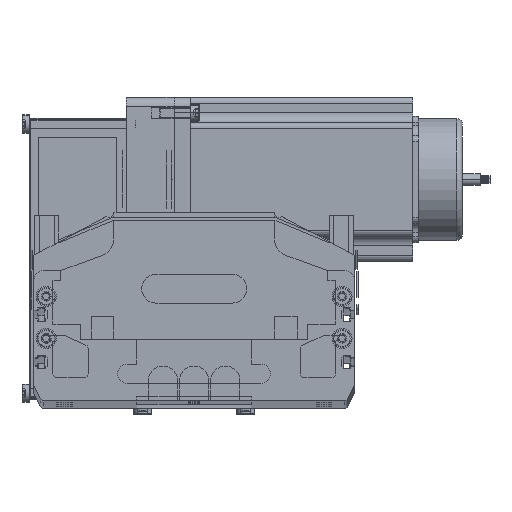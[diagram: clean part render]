
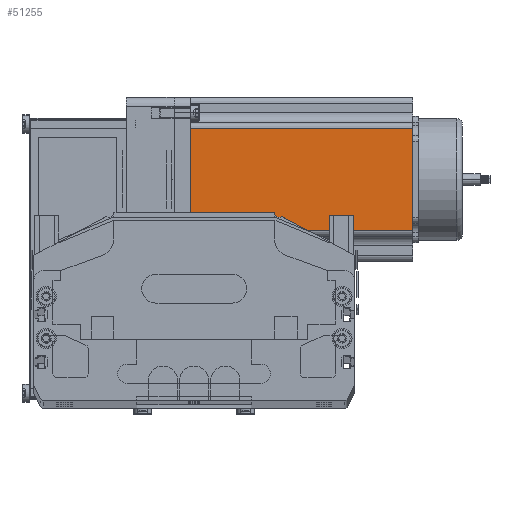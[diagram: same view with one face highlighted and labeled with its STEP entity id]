
A CAD part, top view. The second image highlights one B-rep face of the part: STEP entity #51255.
In plain terms, the highlighted planar face has unit normal (0, 0, 1) as drawn and (0, -1, 0) by its records, which use the part's own axes.
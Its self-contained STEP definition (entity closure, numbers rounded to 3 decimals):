
#40072 = CARTESIAN_POINT ( 'NONE',  ( 69.74, 0., 116.5 ) ) ;
#50978 = VERTEX_POINT ( 'NONE', #61922 ) ;
#50980 = VERTEX_POINT ( 'NONE', #61921 ) ;
#51208 = EDGE_LOOP ( 'NONE', ( #51424, #51260, #51257, #51385 ) ) ;
#51255 = ADVANCED_FACE ( 'NONE', ( #62298 ), #62310, .F. ) ;
#51257 = ORIENTED_EDGE ( 'NONE', *, *, #51262, .F. ) ;
#51258 = VERTEX_POINT ( 'NONE', #62429 ) ;
#51259 = EDGE_CURVE ( 'NONE', #50980, #51444, #62419, .T. ) ;
#51260 = ORIENTED_EDGE ( 'NONE', *, *, #51259, .T. ) ;
#51262 = EDGE_CURVE ( 'NONE', #51258, #51444, #62386, .T. ) ;
#51371 = EDGE_CURVE ( 'NONE', #51258, #50978, #62702, .T. ) ;
#51372 = EDGE_CURVE ( 'NONE', #50978, #50980, #62685, .T. ) ;
#51385 = ORIENTED_EDGE ( 'NONE', *, *, #51371, .T. ) ;
#51424 = ORIENTED_EDGE ( 'NONE', *, *, #51372, .T. ) ;
#51444 = VERTEX_POINT ( 'NONE', #40072 ) ;
#61921 = CARTESIAN_POINT ( 'NONE',  ( 69.74, 0., 0. ) ) ;
#61922 = CARTESIAN_POINT ( 'NONE',  ( 16.16, 0., 0. ) ) ;
#62297 = CARTESIAN_POINT ( 'NONE',  ( 69.74, 0., 116.5 ) ) ;
#62298 = FACE_OUTER_BOUND ( 'NONE', #51208, .T. ) ;
#62310 = PLANE ( 'NONE',  #62417 ) ;
#62383 = DIRECTION ( 'NONE',  ( 1., 0., 0. ) ) ;
#62384 = VECTOR ( 'NONE', #62383, 1000. ) ;
#62385 = CARTESIAN_POINT ( 'NONE',  ( 0., 0., 116.5 ) ) ;
#62386 = LINE ( 'NONE', #62385, #62384 ) ;
#62394 = DIRECTION ( 'NONE',  ( 0., 0., 1. ) ) ;
#62396 = VECTOR ( 'NONE', #62394, 1000. ) ;
#62411 = DIRECTION ( 'NONE',  ( 0., 0., 1. ) ) ;
#62413 = DIRECTION ( 'NONE',  ( 0., 1., 0. ) ) ;
#62416 = CARTESIAN_POINT ( 'NONE',  ( 0., 0., 116.5 ) ) ;
#62417 = AXIS2_PLACEMENT_3D ( 'NONE', #62416, #62413, #62411 ) ;
#62419 = LINE ( 'NONE', #62297, #62396 ) ;
#62429 = CARTESIAN_POINT ( 'NONE',  ( 16.16, 0., 116.5 ) ) ;
#62676 = DIRECTION ( 'NONE',  ( 1., 0., 0. ) ) ;
#62678 = VECTOR ( 'NONE', #62676, 1000. ) ;
#62681 = CARTESIAN_POINT ( 'NONE',  ( 0., 0., 0. ) ) ;
#62685 = LINE ( 'NONE', #62681, #62678 ) ;
#62686 = DIRECTION ( 'NONE',  ( 0., 0., -1. ) ) ;
#62687 = VECTOR ( 'NONE', #62686, 1000. ) ;
#62689 = CARTESIAN_POINT ( 'NONE',  ( 16.16, 0., 116.5 ) ) ;
#62702 = LINE ( 'NONE', #62689, #62687 ) ;
